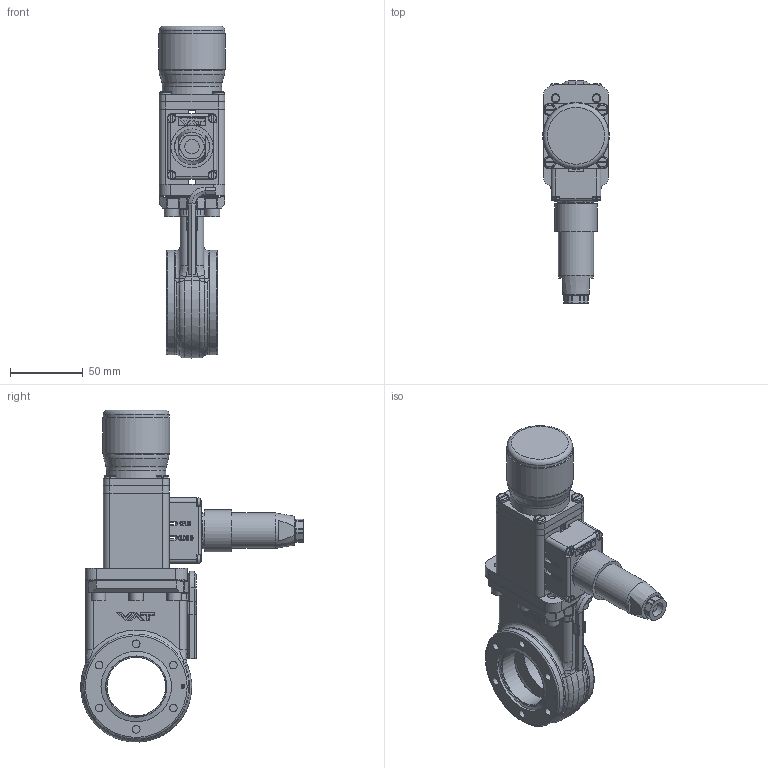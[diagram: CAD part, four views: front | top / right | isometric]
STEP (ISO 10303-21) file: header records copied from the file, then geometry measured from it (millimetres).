
FILE_DESCRIPTION(/* description */ (''),/* implementation_level */ '2;1');
FILE_NAME(/* name */ '1561094776_203',/* time_stamp */ '2009-09-03T15:43:15+02:00',/* author */ (''),/* organization */ (''),/* preprocessor_version */ 'ST-DEVELOPER v11',/* originating_system */ 'UGS - NX 5.0',/* authorisation */ '');
FILE_SCHEMA (('CONFIG_CONTROL_DESIGN'));
Length unit declared in the file: millimetre
Products named in the file (22): 63150-01; 63172-01; 69852-01; 92412-01.2; n-8504-002; 69672-01; n-6016-078.1; 69968-01.1; 73280-01_1.1; 228772.1; 71074-01.2; 252066.1; n-6013-430.1; 65209-01.2; 255519.1; 255517.1; 255526.1; 63152-01.4; 318865; 63170-r1; 68340-r1.6; 415978
Assembly tree (37 placements, depth 5):
  415978
    68340-r1.6
      69852-01
      63172-01
      63170-r1
        318865
          63150-01  x2
      92412-01.2
    63152-01.4
    255526.1
    255517.1
    255519.1
    65209-01.2
    n-6013-430.1  x2
    252066.1  x4
    71074-01.2
    228772.1  x6
    73280-01_1.1
    69968-01.1
    n-6016-078.1  x5
    69672-01
    n-8504-002
    92412-01.2  x2
Bounding box: 45.8 x 152.51 x 227.65 mm (x, y, z)
Volume: 270365.3 mm3; surface area: 154844.1 mm2
Topology: 55 solids, 55 shells, 1287 faces, 3151 edges, 2093 vertices
Faces by surface type: plane 731, cylinder 334, cone 76, bspline 74, torus 40, extrusion 32
Full cylindrical faces by diameter (mm): 1.95 x4, 2.25 x4, 2.46 x5, 2.5 x9, 3 x7, 3.3 x4, 3.4 x6, 3.6 x2, 4 x8, 4.65 x4, 4.96 x6, 5 x6, 5.2 x18, 5.4 x4, 5.6 x10, 5.7 x4, 5.95 x2, 6 x22, 6.2 x10, 6.95 x2, 8.1 x4, 9.85 x1, 10 x7, 13.3 x1, 13.85 x1, 14.9 x1, 15 x1, 17.55 x1, 23.5 x1, 24.3 x1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
Entity records: 40361 total; most frequent: CARTESIAN_POINT 14030, ORIENTED_EDGE 4808, DIRECTION 4491, EDGE_CURVE 2404, VERTEX_POINT 1711, AXIS2_PLACEMENT_3D 1585, EDGE_LOOP 1361, VECTOR 1321
